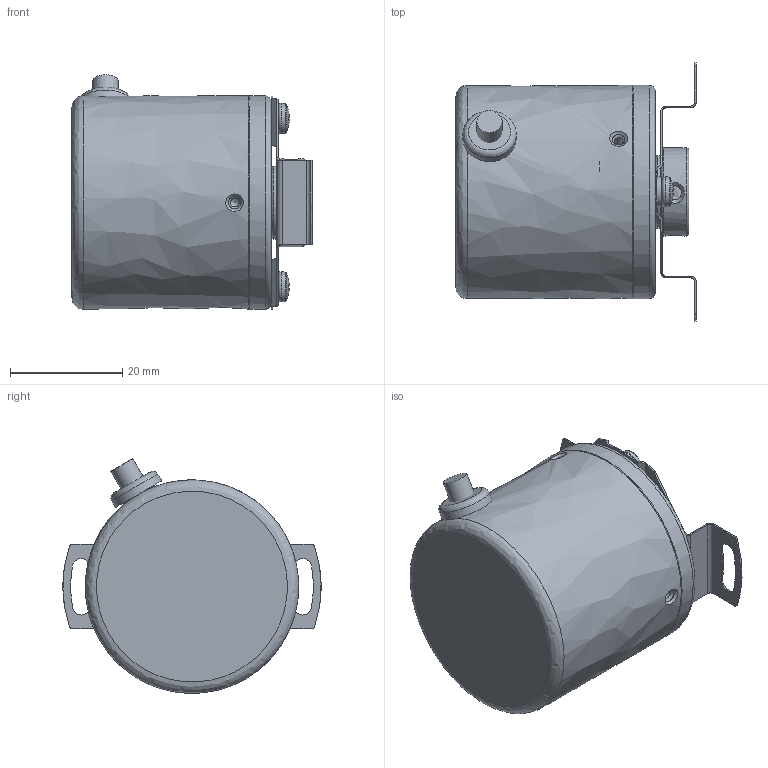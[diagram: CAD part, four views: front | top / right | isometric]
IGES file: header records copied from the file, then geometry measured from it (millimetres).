
Global section: file name: HTR-HN1; native system: Autodesk Inventor 2016; preprocessor: unknown; author: hontko109; date: 20180109.141208; units: millimetre
Bounding box: 42.8 x 45.98 x 41.77 mm (x, y, z)
Volume: 16875.8 mm3; surface area: 21385.5 mm2
Topology: 13 solids, 13 shells, 533 faces, 1481 edges, 1012 vertices
Faces by surface type: bspline 533
